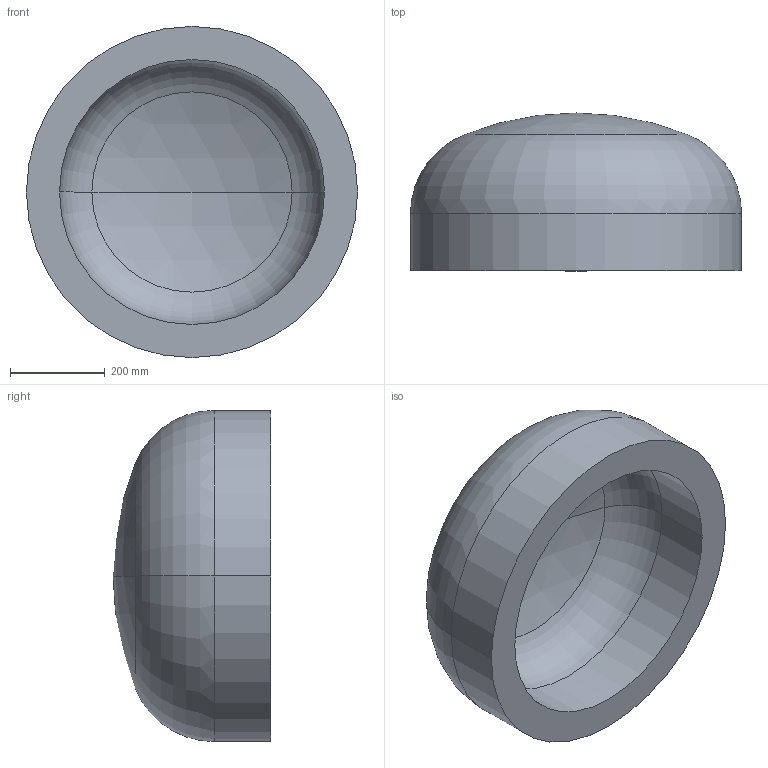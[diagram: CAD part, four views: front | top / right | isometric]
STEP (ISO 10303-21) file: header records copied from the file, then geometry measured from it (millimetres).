
FILE_DESCRIPTION (( 'STEP AP203' ), '1' );
FILE_NAME ('DIN 28013 Korbbogenform_-_Boden DIN 28013 - 700 x 120 - I - s=70.step', '2016-07-01T08:10:05', ( '' ), ( '' ), 'SwSTEP 2.0', 'SolidWorks 2013', '' );
FILE_SCHEMA (( 'CONFIG_CONTROL_DESIGN' ));
Length unit declared in the file: millimetre
Products named in the file (1): DIN 28013 Korbbogenform_-_Boden DIN 28013 - 700 x 120 - I - s=70
Bounding box: 700 x 333.35 x 700 mm (x, y, z)
Volume: 49735486.4 mm3; surface area: 1569820.5 mm2
Topology: 1 solids, 1 shells, 13 faces, 24 edges, 14 vertices
Faces by surface type: torus 4, cylinder 4, sphere 4, plane 1
Entity records: 407 total; most frequent: DIRECTION 72, CARTESIAN_POINT 52, ORIENTED_EDGE 48, AXIS2_PLACEMENT_3D 34, EDGE_CURVE 24, CIRCLE 20, EDGE_LOOP 14, VERTEX_POINT 14
